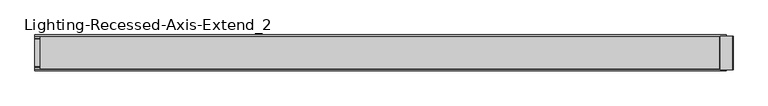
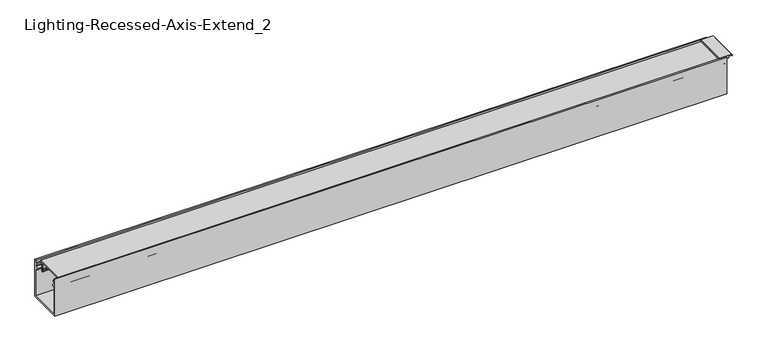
"""IFC4 building model written with IfcOpenShell, lengths in millimetres: light fixture geometry, Lighting-Recessed-Axis-Extend_2 : EX2R-900-80-35-SO-4."""

from ifc_helpers import new_model, si_unit, point, frame, frame_2d, origin, place, context, project, spatial, polyline, circle_curve, trimmed, segment, composite_curve, outline, extrude, source, transform, mapped, element, save


def lighting_recessed_axis_extend_2_6ccd1246(model_context):
    return source(origin(), model_context, "Body", "SweptSolid", [
        extrude(outline(polyline([(-1.1017139, 630.8598), (0.0, 629.9352563), (0.0, 607.5781437), (-1.1017139, 606.6536), (-2.57175, 606.6536), (-2.57175, 607.44735), (-1.778, 607.44735), (-1.778, 613.918), (-4.5842019, 613.918), (-4.5842019, 623.5954), (-1.778, 623.5954), (-1.778, 630.06605), (-2.57175, 630.06605), (-2.57175, 630.8598), (-1.1017139, 630.8598)])), frame((0.0, -29.972, 0.0), z_axis=(0.0, 1.0, 0.0), x_axis=(0.0, 0.0, 1.0)), (0.0, 0.0, 1.0), 59.944),
        extrude(outline(composite_curve([segment(polyline([(-24.1727262, -4.8895009), (-24.5114181, -11.3521263)]), True, "CONTINUOUS"), segment(trimmed(circle_curve(frame_2d((-27.2542, -14.351)), 4.064), [point((-24.5114181, -11.3521263))], [point((-25.3818814, -17.9580097))], False, "CARTESIAN"), True, "CONTINUOUS"), segment(trimmed(circle_curve(frame_2d((-22.149344, -17.1691543)), 3.3274001), [point((-25.3818814, -17.9580097))], [point((-24.5665956, -19.4557425))], True, "CARTESIAN"), True, "CONTINUOUS"), segment(trimmed(circle_curve(frame_2d((-17.1303177, -12.4214292)), 10.2362001), [point((-24.5665956, -19.4557425))], [point((-23.2119066, -20.6551445))], True, "CARTESIAN"), True, "CONTINUOUS"), segment(trimmed(circle_curve(frame_2d((-23.7023573, -21.3191538)), 0.8255), [point((-23.2119066, -20.6551445))], [point((-24.192808, -21.9831631))], False, "CARTESIAN"), True, "CONTINUOUS"), segment(trimmed(circle_curve(frame_2d((-17.1303169, -12.4214283)), 11.8872013), [point((-24.192808, -21.9831631))], [point((-25.7659952, -20.5903092))], False, "CARTESIAN"), True, "CONTINUOUS"), segment(trimmed(circle_curve(frame_2d((-22.149344, -17.1691543)), 4.9784001), [point((-25.7659952, -20.5903092))], [point((-27.1108807, -16.75974))], False, "CARTESIAN"), True, "CONTINUOUS"), segment(trimmed(circle_curve(frame_2d((-27.2542, -14.351)), 2.413), [point((-27.1108807, -16.75974))], [point((-25.4753941, -12.7205342))], True, "CARTESIAN"), True, "CONTINUOUS"), segment(trimmed(circle_curve(frame_2d((-23.6029669, -11.0042544)), 2.54), [point((-25.4753941, -12.7205342))], [point((-26.1394859, -10.8713211))], False, "CARTESIAN"), True, "CONTINUOUS"), segment(polyline([(-26.1394859, -10.8713211), (-25.825992, -4.8895009), (-28.829, -4.8895009), (-28.829, -2.9845), (28.829, -2.9845), (28.829, -4.8895009), (25.825992, -4.8895009), (26.1394859, -10.8713211)]), True, "CONTINUOUS"), segment(trimmed(circle_curve(frame_2d((23.6029669, -11.0042544)), 2.54), [point((26.1394859, -10.8713211))], [point((25.4753941, -12.7205342))], False, "CARTESIAN"), True, "CONTINUOUS"), segment(trimmed(circle_curve(frame_2d((27.2542, -14.351)), 2.413), [point((25.4753941, -12.7205342))], [point((27.1108807, -16.75974))], True, "CARTESIAN"), True, "CONTINUOUS"), segment(trimmed(circle_curve(frame_2d((22.149344, -17.1691543)), 4.9784001), [point((27.1108807, -16.75974))], [point((25.7659952, -20.5903092))], False, "CARTESIAN"), True, "CONTINUOUS"), segment(trimmed(circle_curve(frame_2d((17.1303169, -12.4214283)), 11.8872013), [point((25.7659952, -20.5903092))], [point((24.192808, -21.9831631))], False, "CARTESIAN"), True, "CONTINUOUS"), segment(trimmed(circle_curve(frame_2d((23.7023573, -21.3191538)), 0.8255), [point((24.192808, -21.9831631))], [point((23.2119066, -20.6551445))], False, "CARTESIAN"), True, "CONTINUOUS"), segment(trimmed(circle_curve(frame_2d((17.1303177, -12.4214292)), 10.2362001), [point((23.2119066, -20.6551445))], [point((24.5665956, -19.4557425))], True, "CARTESIAN"), True, "CONTINUOUS"), segment(trimmed(circle_curve(frame_2d((22.149344, -17.1691543)), 3.3274001), [point((24.5665956, -19.4557425))], [point((25.3818814, -17.9580097))], True, "CARTESIAN"), True, "CONTINUOUS"), segment(trimmed(circle_curve(frame_2d((27.2542, -14.351)), 4.064), [point((25.3818814, -17.9580097))], [point((24.5114181, -11.3521263))], False, "CARTESIAN"), True, "CONTINUOUS"), segment(polyline([(24.5114181, -11.3521263), (24.1727262, -4.8895009), (-24.1727262, -4.8895009)]), True, "CONTINUOUS")], self_intersect=False)), frame((-609.6, 0.0, 0.0), z_axis=(1.0, 0.0, 0.0), x_axis=(0.0, 1.0, 0.0)), (0.0, 0.0, 1.0), 1219.2),
        extrude(outline(composite_curve([segment(polyline([(-29.972, -14.9098), (-29.972, -69.4055), (29.972, -69.4055), (29.972, -14.9098), (28.1325797, -14.9098)]), True, "CONTINUOUS"), segment(trimmed(circle_curve(frame_2d((26.6262297, -14.9098)), 1.5063501), [point((28.1325797, -14.9098))], [point((25.8730546, -16.2143374))], False, "CARTESIAN"), True, "CONTINUOUS"), segment(trimmed(circle_curve(frame_2d((27.0642121, -14.1511921)), 2.382315), [point((25.8730546, -16.2143374))], [point((24.6896516, -13.9591318))], False, "CARTESIAN"), True, "CONTINUOUS"), segment(polyline([(24.6896516, -13.9591318), (28.067, -11.1252), (28.067, -12.8778), (29.972, -12.8778), (29.972, -6.35), (28.067, -6.35), (28.067, -7.874), (26.416, -7.7874748), (26.416, -5.08), (29.972, -5.08), (29.972, 0.0), (32.004, 0.0), (32.004, -71.4375), (-32.004, -71.4375), (-32.004, 0.0), (-29.972, 0.0), (-29.972, -5.08), (-26.416, -5.08), (-26.416, -7.7874748), (-28.067, -7.874), (-28.067, -6.35), (-29.972, -6.35), (-29.972, -12.8778), (-28.067, -12.8778), (-28.067, -11.1252), (-24.6896516, -13.9591318)]), True, "CONTINUOUS"), segment(trimmed(circle_curve(frame_2d((-27.0642121, -14.1511921)), 2.382315), [point((-24.6896516, -13.9591318))], [point((-25.8730546, -16.2143374))], False, "CARTESIAN"), True, "CONTINUOUS"), segment(trimmed(circle_curve(frame_2d((-26.6262297, -14.9098)), 1.5063501), [point((-25.8730546, -16.2143374))], [point((-28.1325797, -14.9098))], False, "CARTESIAN"), True, "CONTINUOUS"), segment(polyline([(-28.1325797, -14.9098), (-29.972, -14.9098)]), True, "CONTINUOUS")], self_intersect=False)), frame((-618.7567, 0.0, 0.0), z_axis=(1.0, 0.0, 0.0), x_axis=(0.0, 1.0, 0.0)), (0.0, 0.0, 1.0), 1237.5134),
    ])


if __name__ == "__main__":
    model = new_model("IFC4")
    model_context = context("Model", 3, world=origin())
    ifc_project = project(units=[si_unit("LENGTHUNIT", "METRE", prefix="MILLI")], contexts=[model_context])
    site = spatial("IfcSite", under=ifc_project)
    building = spatial("IfcBuilding", under=site)
    placement = place(None, origin())
    lighting_recessed_axis_extend_2_shape = lighting_recessed_axis_extend_2_6ccd1246(model_context)
    element("IfcLightFixture", 1, ObjectType="Lighting-Recessed-Axis-Extend_2 : EX2R-900-80-35-SO-4", at=placement, inside=building, context=model_context, shape_type="MappedRepresentation", body=[
        mapped(lighting_recessed_axis_extend_2_shape, transform((0.0, 0.0, 0.0), x_axis=(1.0, 0.0, 0.0), y_axis=(0.0, 1.0, 0.0), z_axis=(0.0, 0.0, 1.0))),
    ])
    save(model, "model.ifc")
